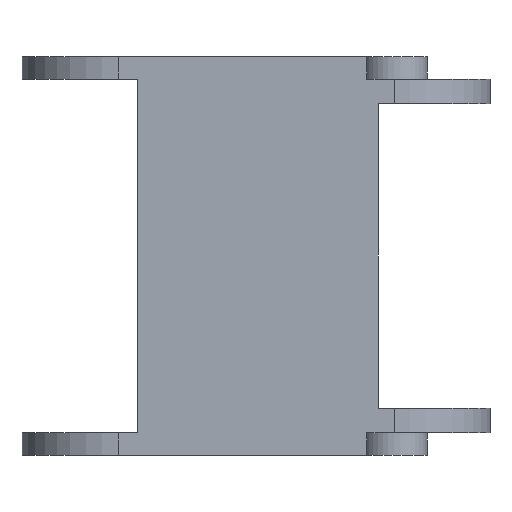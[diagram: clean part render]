
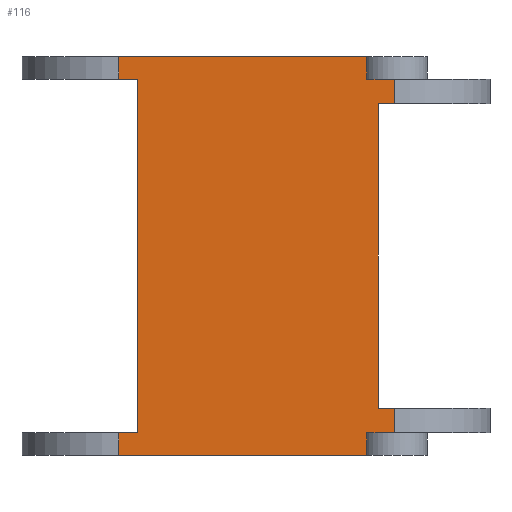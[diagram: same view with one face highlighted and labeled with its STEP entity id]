
A CAD part, front view. The second image highlights one B-rep face of the part: STEP entity #116.
In plain terms, the highlighted planar face has unit normal (0, -1, 0).
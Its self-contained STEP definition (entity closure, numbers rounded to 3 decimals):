
#116=ADVANCED_FACE('',(#581),#583,.T.);
#581=FACE_BOUND('',#582,.T.);
#582=EDGE_LOOP('',(#950,#951,#952,#953,#954,#955,#956,#957,#958,#959,#960,#961,#962,
#963,#964,#965));
#583=PLANE('',#584);
#584=AXIS2_PLACEMENT_3D('',#585,#586,#587);
#585=CARTESIAN_POINT('',(0.,-11.75,-24.25));
#586=DIRECTION('',(0.,-1.,0.));
#587=DIRECTION('',(1.,0.,0.));
#950=ORIENTED_EDGE('',*,*,#1244,.T.);
#951=ORIENTED_EDGE('',*,*,#1231,.T.);
#952=ORIENTED_EDGE('',*,*,#1245,.T.);
#953=ORIENTED_EDGE('',*,*,#1246,.T.);
#954=ORIENTED_EDGE('',*,*,#1247,.T.);
#955=ORIENTED_EDGE('',*,*,#1248,.T.);
#956=ORIENTED_EDGE('',*,*,#1249,.T.);
#957=ORIENTED_EDGE('',*,*,#1250,.T.);
#958=ORIENTED_EDGE('',*,*,#1251,.F.);
#959=ORIENTED_EDGE('',*,*,#1252,.F.);
#960=ORIENTED_EDGE('',*,*,#1253,.T.);
#961=ORIENTED_EDGE('',*,*,#1254,.T.);
#962=ORIENTED_EDGE('',*,*,#1255,.T.);
#963=ORIENTED_EDGE('',*,*,#1256,.F.);
#964=ORIENTED_EDGE('',*,*,#1234,.T.);
#965=ORIENTED_EDGE('',*,*,#1257,.T.);
#1231=EDGE_CURVE('',#1386,#1388,#1390,.T.);
#1234=EDGE_CURVE('',#1396,#1394,#1397,.T.);
#1244=EDGE_CURVE('',#1414,#1386,#1415,.F.);
#1245=EDGE_CURVE('',#1388,#1416,#1417,.F.);
#1246=EDGE_CURVE('',#1416,#1418,#1419,.F.);
#1247=EDGE_CURVE('',#1418,#1420,#1421,.F.);
#1248=EDGE_CURVE('',#1420,#1422,#1423,.T.);
#1249=EDGE_CURVE('',#1422,#1424,#1425,.T.);
#1250=EDGE_CURVE('',#1424,#1426,#1427,.F.);
#1251=EDGE_CURVE('',#1428,#1426,#1429,.T.);
#1252=EDGE_CURVE('',#1430,#1428,#1431,.T.);
#1253=EDGE_CURVE('',#1430,#1432,#1433,.T.);
#1254=EDGE_CURVE('',#1432,#1434,#1435,.F.);
#1255=EDGE_CURVE('',#1434,#1436,#1437,.F.);
#1256=EDGE_CURVE('',#1396,#1436,#1438,.T.);
#1257=EDGE_CURVE('',#1394,#1414,#1439,.T.);
#1386=VERTEX_POINT('',#1659);
#1388=VERTEX_POINT('',#1664);
#1390=LINE('',#1669,#1670);
#1394=VERTEX_POINT('',#1678);
#1396=VERTEX_POINT('',#1682);
#1397=LINE('',#1683,#1684);
#1414=VERTEX_POINT('',#1725);
#1415=LINE('',#1726,#1727);
#1416=VERTEX_POINT('',#1729);
#1417=LINE('',#1730,#1731);
#1418=VERTEX_POINT('',#1733);
#1419=LINE('',#1734,#1735);
#1420=VERTEX_POINT('',#1737);
#1421=LINE('',#1738,#1739);
#1422=VERTEX_POINT('',#1741);
#1423=LINE('',#1742,#1743);
#1424=VERTEX_POINT('',#1745);
#1425=LINE('',#1746,#1747);
#1426=VERTEX_POINT('',#1749);
#1427=LINE('',#1750,#1751);
#1428=VERTEX_POINT('',#1753);
#1429=LINE('',#1754,#1755);
#1430=VERTEX_POINT('',#1757);
#1431=LINE('',#1758,#1759);
#1432=VERTEX_POINT('',#1761);
#1433=LINE('',#1762,#1763);
#1434=VERTEX_POINT('',#1765);
#1435=LINE('',#1766,#1767);
#1436=VERTEX_POINT('',#1769);
#1437=LINE('',#1770,#1771);
#1438=LINE('',#1773,#1774);
#1439=LINE('',#1776,#1777);
#1659=CARTESIAN_POINT('',(33.5,-11.75,-21.5));
#1664=CARTESIAN_POINT('',(33.5,-11.75,-18.5));
#1669=CARTESIAN_POINT('',(33.5,-11.75,-21.5));
#1670=VECTOR('',#1671,1.);
#1671=DIRECTION('',(0.,0.,1.));
#1678=CARTESIAN_POINT('',(30.191,-11.75,-24.25));
#1682=CARTESIAN_POINT('',(0.,-11.75,-24.25));
#1683=CARTESIAN_POINT('',(0.,-11.75,-24.25));
#1684=VECTOR('',#1685,1.);
#1685=DIRECTION('',(1.,0.,0.));
#1725=CARTESIAN_POINT('',(30.191,-11.75,-21.5));
#1726=CARTESIAN_POINT('',(33.5,-11.75,-21.5));
#1727=VECTOR('',#1728,1.);
#1728=DIRECTION('',(-1.,0.,0.));
#1729=CARTESIAN_POINT('',(31.543,-11.75,-18.5));
#1730=CARTESIAN_POINT('',(31.543,-11.75,-18.5));
#1731=VECTOR('',#1732,1.);
#1732=DIRECTION('',(1.,0.,0.));
#1733=CARTESIAN_POINT('',(31.543,-11.75,18.5));
#1734=CARTESIAN_POINT('',(31.543,-11.75,18.5));
#1735=VECTOR('',#1736,1.);
#1736=DIRECTION('',(0.,0.,-1.));
#1737=CARTESIAN_POINT('',(33.5,-11.75,18.5));
#1738=CARTESIAN_POINT('',(33.5,-11.75,18.5));
#1739=VECTOR('',#1740,1.);
#1740=DIRECTION('',(-1.,0.,0.));
#1741=CARTESIAN_POINT('',(33.5,-11.75,21.5));
#1742=CARTESIAN_POINT('',(33.5,-11.75,18.5));
#1743=VECTOR('',#1744,1.);
#1744=DIRECTION('',(0.,0.,1.));
#1745=CARTESIAN_POINT('',(30.191,-11.75,21.5));
#1746=CARTESIAN_POINT('',(33.5,-11.75,21.5));
#1747=VECTOR('',#1748,1.);
#1748=DIRECTION('',(-1.,0.,0.));
#1749=CARTESIAN_POINT('',(30.191,-11.75,24.25));
#1750=CARTESIAN_POINT('',(30.191,-11.75,24.25));
#1751=VECTOR('',#1752,1.);
#1752=DIRECTION('',(0.,0.,-1.));
#1753=CARTESIAN_POINT('',(0.,-11.75,24.25));
#1754=CARTESIAN_POINT('',(0.,-11.75,24.25));
#1755=VECTOR('',#1756,1.);
#1756=DIRECTION('',(1.,0.,0.));
#1757=CARTESIAN_POINT('',(0.,-11.75,21.5));
#1758=CARTESIAN_POINT('',(0.,-11.75,21.5));
#1759=VECTOR('',#1760,1.);
#1760=DIRECTION('',(0.,0.,1.));
#1761=CARTESIAN_POINT('',(2.25,-11.75,21.5));
#1762=CARTESIAN_POINT('',(0.,-11.75,21.5));
#1763=VECTOR('',#1764,1.);
#1764=DIRECTION('',(1.,0.,0.));
#1765=CARTESIAN_POINT('',(2.25,-11.75,-21.5));
#1766=CARTESIAN_POINT('',(2.25,-11.75,-21.5));
#1767=VECTOR('',#1768,1.);
#1768=DIRECTION('',(0.,0.,1.));
#1769=CARTESIAN_POINT('',(0.,-11.75,-21.5));
#1770=CARTESIAN_POINT('',(0.,-11.75,-21.5));
#1771=VECTOR('',#1772,1.);
#1772=DIRECTION('',(1.,0.,0.));
#1773=CARTESIAN_POINT('',(0.,-11.75,-24.25));
#1774=VECTOR('',#1775,1.);
#1775=DIRECTION('',(0.,0.,1.));
#1776=CARTESIAN_POINT('',(30.191,-11.75,-24.25));
#1777=VECTOR('',#1778,1.);
#1778=DIRECTION('',(0.,0.,1.));
